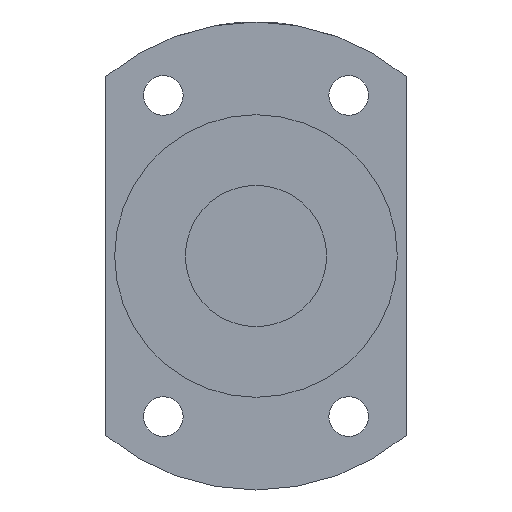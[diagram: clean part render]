
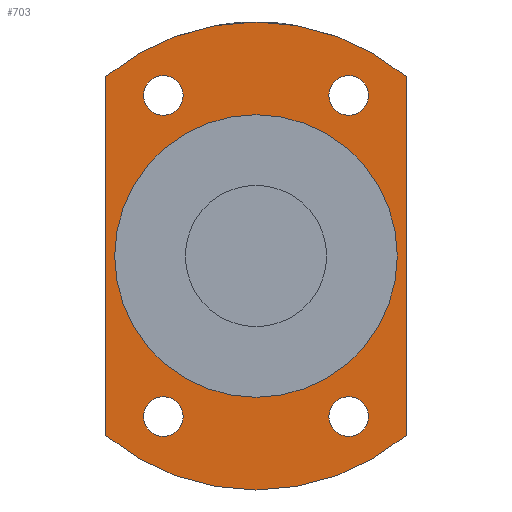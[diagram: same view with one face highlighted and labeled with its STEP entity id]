
A CAD part, left-side view. The second image highlights one B-rep face of the part: STEP entity #703.
In plain terms, the highlighted planar face has unit normal (-1, 0, 0).
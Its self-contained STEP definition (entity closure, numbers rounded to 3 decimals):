
#396=CARTESIAN_POINT('',(10.1,-10.5,-15.937));
#397=VERTEX_POINT('',#396);
#398=CARTESIAN_POINT('',(10.1,-10.5,-18.187));
#399=DIRECTION('',(1.0,0.0,0.0));
#400=DIRECTION('',(0.0,0.0,1.0));
#401=AXIS2_PLACEMENT_3D('',#398,#399,#400);
#402=CIRCLE('',#401,2.25);
#403=EDGE_CURVE('',#397,#397,#402,.T.);
#445=CARTESIAN_POINT('',(10.1,10.5,-15.937));
#446=VERTEX_POINT('',#445);
#447=CARTESIAN_POINT('',(10.1,10.5,-18.187));
#448=DIRECTION('',(1.0,0.0,0.0));
#449=DIRECTION('',(0.0,0.0,1.0));
#450=AXIS2_PLACEMENT_3D('',#447,#448,#449);
#451=CIRCLE('',#450,2.25);
#452=EDGE_CURVE('',#446,#446,#451,.T.);
#494=CARTESIAN_POINT('',(10.1,10.5,20.437));
#495=VERTEX_POINT('',#494);
#496=CARTESIAN_POINT('',(10.1,10.5,18.187));
#497=DIRECTION('',(1.0,0.0,0.0));
#498=DIRECTION('',(0.0,0.0,1.0));
#499=AXIS2_PLACEMENT_3D('',#496,#497,#498);
#500=CIRCLE('',#499,2.25);
#501=EDGE_CURVE('',#495,#495,#500,.T.);
#543=CARTESIAN_POINT('',(10.1,-10.5,20.437));
#544=VERTEX_POINT('',#543);
#545=CARTESIAN_POINT('',(10.1,-10.5,18.187));
#546=DIRECTION('',(1.0,0.0,0.0));
#547=DIRECTION('',(0.0,0.0,1.0));
#548=AXIS2_PLACEMENT_3D('',#545,#546,#547);
#549=CIRCLE('',#548,2.25);
#550=EDGE_CURVE('',#544,#544,#549,.T.);
#570=CARTESIAN_POINT('',(10.1,-17.0,20.329));
#571=VERTEX_POINT('',#570);
#578=CARTESIAN_POINT('',(10.1,-17.,-20.329));
#579=VERTEX_POINT('',#578);
#580=CARTESIAN_POINT('',(10.1,-17.,-20.329));
#581=DIRECTION('',(0.0,0.0,1.0));
#582=VECTOR('',#581,40.657);
#583=LINE('',#580,#582);
#584=EDGE_CURVE('',#579,#571,#583,.T.);
#610=CARTESIAN_POINT('',(10.1,17.,-20.329));
#611=VERTEX_POINT('',#610);
#618=CARTESIAN_POINT('',(10.1,17.,20.329));
#619=VERTEX_POINT('',#618);
#620=CARTESIAN_POINT('',(10.1,17.,20.329));
#621=DIRECTION('',(0.0,0.0,-1.0));
#622=VECTOR('',#621,40.657);
#623=LINE('',#620,#622);
#624=EDGE_CURVE('',#619,#611,#623,.T.);
#649=CARTESIAN_POINT('',(10.1,0.0,0.));
#650=DIRECTION('',(-1.0,0.0,0.0));
#651=DIRECTION('',(0.0,0.0,1.0));
#652=AXIS2_PLACEMENT_3D('',#649,#650,#651);
#653=CIRCLE('',#652,26.5);
#654=EDGE_CURVE('',#571,#619,#653,.T.);
#663=CARTESIAN_POINT('',(10.1,0.0,21.25));
#664=DIRECTION('',(-1.0,0.0,0.0));
#665=DIRECTION('',(0.0,0.0,1.0));
#666=AXIS2_PLACEMENT_3D('',#663,#664,#665);
#667=PLANE('',#666);
#668=ORIENTED_EDGE('',*,*,#584,.T.);
#669=ORIENTED_EDGE('',*,*,#654,.T.);
#670=ORIENTED_EDGE('',*,*,#624,.T.);
#671=CARTESIAN_POINT('',(10.1,0.0,0.));
#672=DIRECTION('',(-1.0,0.0,0.0));
#673=DIRECTION('',(0.0,0.0,1.0));
#674=AXIS2_PLACEMENT_3D('',#671,#672,#673);
#675=CIRCLE('',#674,26.5);
#676=EDGE_CURVE('',#611,#579,#675,.T.);
#677=ORIENTED_EDGE('',*,*,#676,.T.);
#678=EDGE_LOOP('',(#668,#669,#670,#677));
#679=FACE_OUTER_BOUND('',#678,.T.);
#680=ORIENTED_EDGE('',*,*,#403,.T.);
#681=EDGE_LOOP('',(#680));
#682=FACE_BOUND('',#681,.T.);
#683=ORIENTED_EDGE('',*,*,#452,.T.);
#684=EDGE_LOOP('',(#683));
#685=FACE_BOUND('',#684,.T.);
#686=ORIENTED_EDGE('',*,*,#501,.T.);
#687=EDGE_LOOP('',(#686));
#688=FACE_BOUND('',#687,.T.);
#689=ORIENTED_EDGE('',*,*,#550,.T.);
#690=EDGE_LOOP('',(#689));
#691=FACE_BOUND('',#690,.T.);
#692=CARTESIAN_POINT('',(10.1,0.0,16.));
#693=VERTEX_POINT('',#692);
#694=CARTESIAN_POINT('',(10.1,0.0,0.));
#695=DIRECTION('',(-1.0,0.0,0.0));
#696=DIRECTION('',(0.0,0.0,1.0));
#697=AXIS2_PLACEMENT_3D('',#694,#695,#696);
#698=CIRCLE('',#697,16.);
#699=EDGE_CURVE('',#693,#693,#698,.T.);
#700=ORIENTED_EDGE('',*,*,#699,.F.);
#701=EDGE_LOOP('',(#700));
#702=FACE_BOUND('',#701,.T.);
#703=ADVANCED_FACE('',(#679,#682,#685,#688,#691,#702),#667,.T.);
